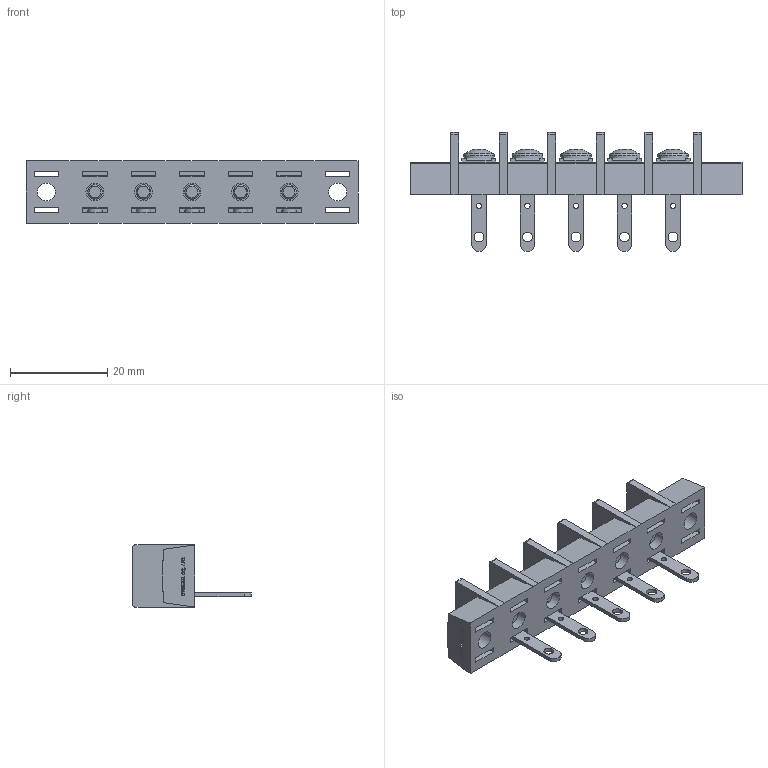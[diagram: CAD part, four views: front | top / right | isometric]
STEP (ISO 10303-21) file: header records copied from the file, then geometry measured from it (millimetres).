
FILE_DESCRIPTION(/* description */ ('Alibre Inc.'),/* implementation_level */ '2;1');
FILE_NAME(/* name */ 'export0',/* time_stamp */ '2015-10-22T20:35:49+09:00',/* author */ (''),/* organization */ (''),/* preprocessor_version */ 'ST-DEVELOPER v14',/* originating_system */ 'Alibre',/* authorisation */ '');
FILE_SCHEMA (('CONFIG_CONTROL_DESIGN'));
Length unit declared in the file: centimetre
Products named in the file (1): ID_1
Bounding box: 68.4 x 24.5 x 12.8 mm (x, y, z)
Volume: 5953.2 mm3; surface area: 7125.3 mm2
Topology: 1 solids, 86 shells, 1827 faces, 4707 edges, 3114 vertices
Faces by surface type: plane 1357, bspline 364, cylinder 66, cone 25, torus 10, sphere 5
Full cylindrical faces by diameter (mm): 1.1 x5, 2 x5, 3 x10, 3.7 x7, 4.6 x7, 6.3 x5
Entity records: 53158 total; most frequent: CARTESIAN_POINT 12872, ORIENTED_EDGE 9292, DIRECTION 5556, EDGE_CURVE 4646, VECTOR 3579, LINE 3579, VERTEX_POINT 3107, EDGE_LOOP 2045
